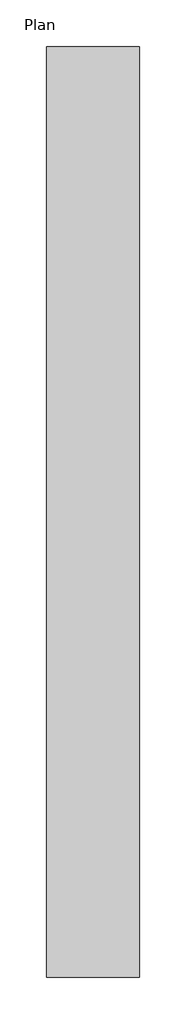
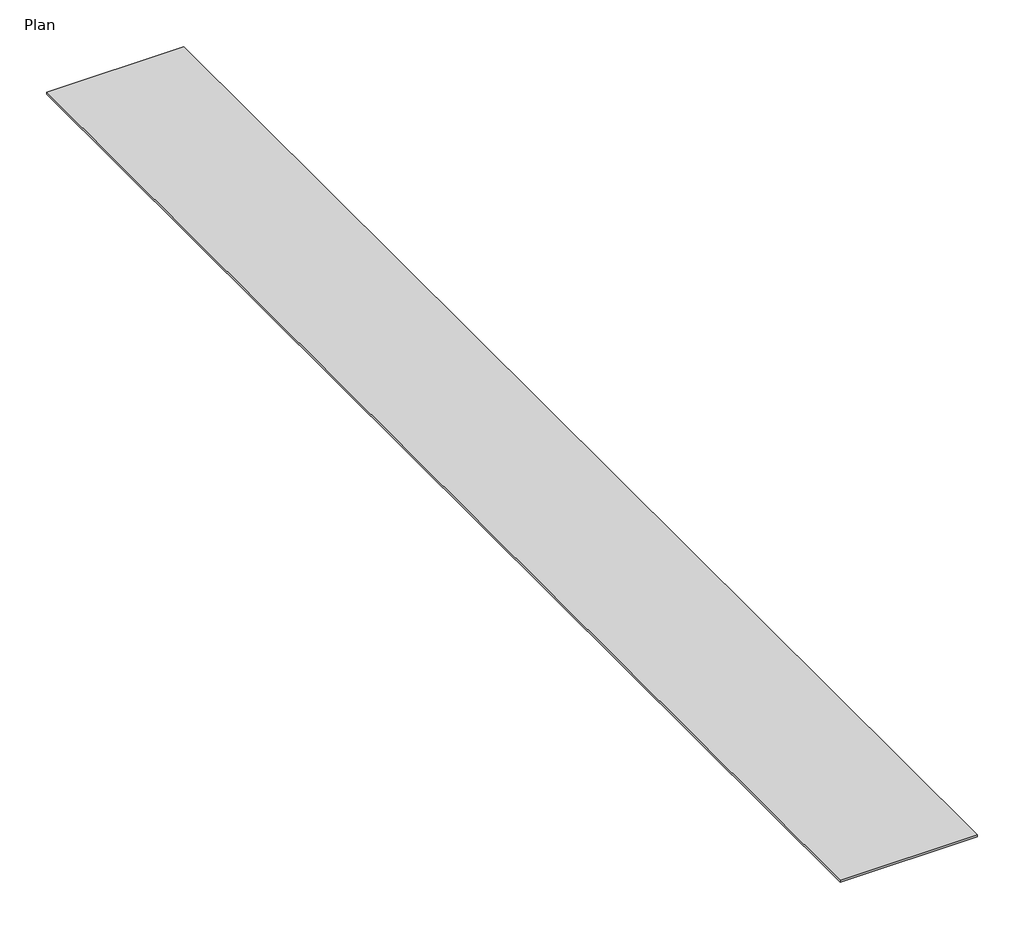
# One storey: 1 proxy.
"""IFC4 building model written with IfcOpenShell, lengths in millimetres."""

from ifc_helpers import new_model, si_unit, origin, place, context, project, spatial, transform, mapped, element, save
from components import generic_models_524f5df3

model = new_model("IFC4")

# Units and contexts
model_context = context("Model", 3, world=origin())
ifc_project = project(units=[si_unit("LENGTHUNIT", "METRE", prefix="MILLI")], contexts=[model_context])

# Site, building, storey
site = spatial("IfcSite", under=ifc_project)
building = spatial("IfcBuilding", under=site)
storey = spatial("IfcBuildingStorey", under=building, Name="Plan", Elevation=0.0)

# Proxy
placement = place(None, origin())
generic_models_shape = generic_models_524f5df3(model_context)
element("IfcBuildingElementProxy", 1, Name="AQUAPANEL Tape (10 cm) : AQUAPANEL Tape (10 cm)", ObjectType="AQUAPANEL Tape (10 cm) : AQUAPANEL Tape (10 cm)", at=placement, inside=storey, context=model_context, shape_type="MappedRepresentation", body=[
    mapped(generic_models_shape, transform((0.0, 0.0, 0.0), x_axis=(1.0, 0.0, 0.0), y_axis=(0.0, 1.0, 0.0), z_axis=(0.0, 0.0, 1.0))),
])

save(model, "model.ifc")
